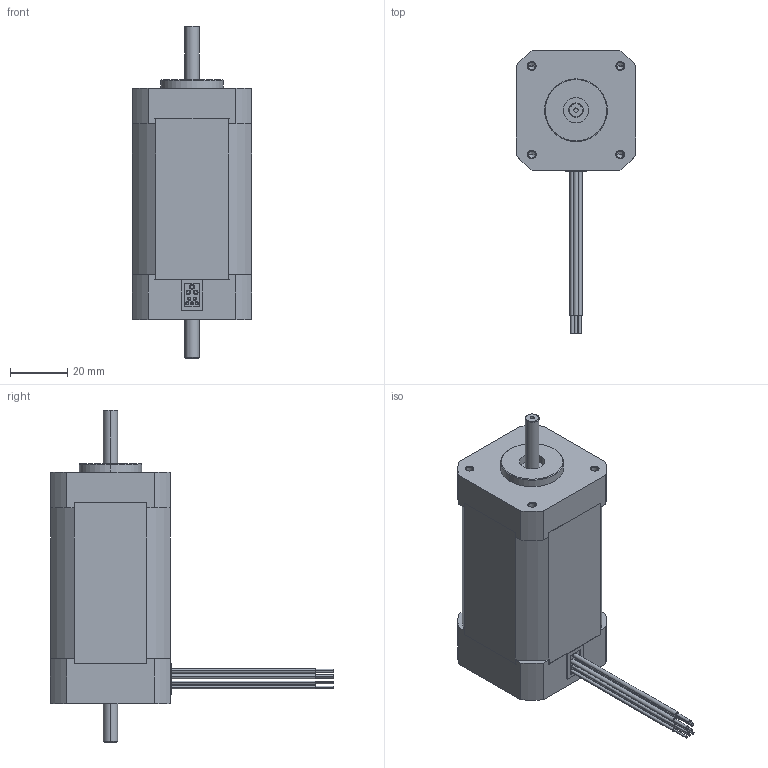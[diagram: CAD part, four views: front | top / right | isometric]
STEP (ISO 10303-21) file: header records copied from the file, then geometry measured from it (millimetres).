
FILE_DESCRIPTION (( 'STEP AP214' ), '1' );
FILE_NAME ('BLY173D.STEP', '2011-11-22T17:02:12', ( '' ), ( '' ), 'SwSTEP 2.0', 'SolidWorks 2011', '' );
FILE_SCHEMA (( 'AUTOMOTIVE_DESIGN' ));
Length unit declared in the file: inch
Products named in the file (1): BLY173D
Bounding box: 42.01 x 99.16 x 116.31 mm (x, y, z)
Volume: 136938.9 mm3; surface area: 19522.7 mm2
Topology: 1 solids, 1 shells, 240 faces, 570 edges, 364 vertices
Faces by surface type: plane 116, cylinder 94, cone 30
Entity records: 8677 total; most frequent: DIRECTION 1246, CARTESIAN_POINT 1163, ORIENTED_EDGE 1116, EDGE_CURVE 558, AXIS2_PLACEMENT_3D 447, VERTEX_POINT 364, VECTOR 352, LINE 352
